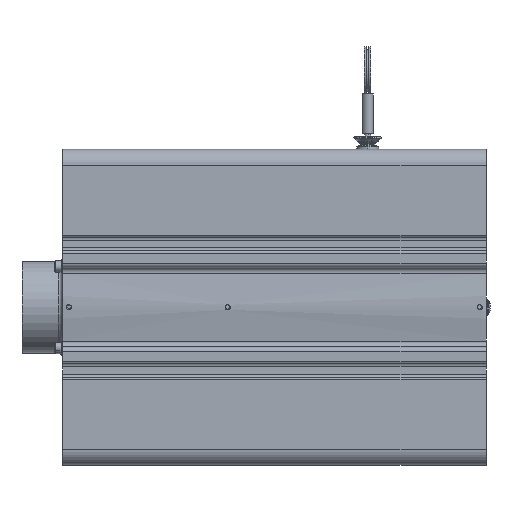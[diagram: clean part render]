
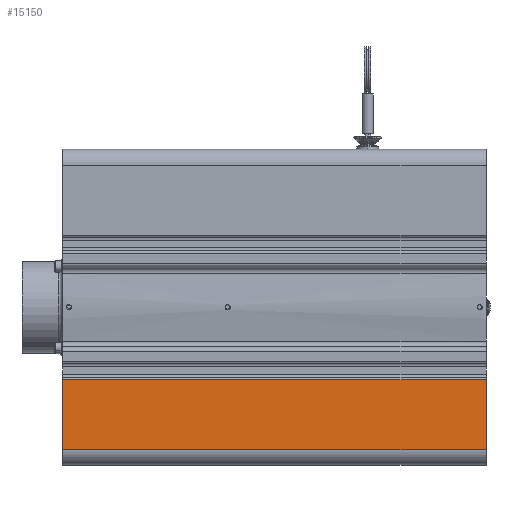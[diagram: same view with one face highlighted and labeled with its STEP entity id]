
A CAD part, front view. The second image highlights one B-rep face of the part: STEP entity #15150.
In plain terms, the highlighted planar face has unit normal (0, -1, 0).
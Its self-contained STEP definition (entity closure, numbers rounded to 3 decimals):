
#2505=DIRECTION('',(0.,0.,1.));
#2506=VECTOR('',#2505,44.275);
#2507=CARTESIAN_POINT('',(0.,-99.95,-90.));
#2508=LINE('',#2507,#2506);
#3685=DIRECTION('',(1.,0.,0.));
#3686=VECTOR('',#3685,268.);
#3687=CARTESIAN_POINT('',(-268.,-99.95,-90.));
#3688=LINE('',#3687,#3686);
#3693=DIRECTION('',(0.,0.,1.));
#3694=VECTOR('',#3693,44.275);
#3695=CARTESIAN_POINT('',(-268.,-99.95,-90.));
#3696=LINE('',#3695,#3694);
#3697=DIRECTION('',(-1.,0.,0.));
#3698=VECTOR('',#3697,268.);
#3699=CARTESIAN_POINT('',(0.,-99.95,-45.725));
#3700=LINE('',#3699,#3698);
#10195=CARTESIAN_POINT('',(0.,-99.95,-90.));
#10196=VERTEX_POINT('',#10195);
#10197=CARTESIAN_POINT('',(0.,-99.95,-45.725));
#10198=VERTEX_POINT('',#10197);
#10433=CARTESIAN_POINT('',(-268.,-99.95,-45.725));
#10434=VERTEX_POINT('',#10433);
#10435=CARTESIAN_POINT('',(-268.,-99.95,-90.));
#10436=VERTEX_POINT('',#10435);
#15138=CARTESIAN_POINT('',(0.,-99.95,100.));
#15139=DIRECTION('',(0.,-1.,0.));
#15140=DIRECTION('',(0.,0.,-1.));
#15141=AXIS2_PLACEMENT_3D('',#15138,#15139,#15140);
#15142=PLANE('',#15141);
#15144=ORIENTED_EDGE('',*,*,#15143,.F.);
#15145=ORIENTED_EDGE('',*,*,#13975,.F.);
#15146=ORIENTED_EDGE('',*,*,#15131,.F.);
#15147=ORIENTED_EDGE('',*,*,#12321,.T.);
#15148=EDGE_LOOP('',(#15144,#15145,#15146,#15147));
#15149=FACE_OUTER_BOUND('',#15148,.F.);
#15150=ADVANCED_FACE('',(#15149),#15142,.T.);
#12321=EDGE_CURVE('',#10436,#10434,#3696,.T.);
#13975=EDGE_CURVE('',#10196,#10198,#2508,.T.);
#15131=EDGE_CURVE('',#10436,#10196,#3688,.T.);
#15143=EDGE_CURVE('',#10198,#10434,#3700,.T.);
